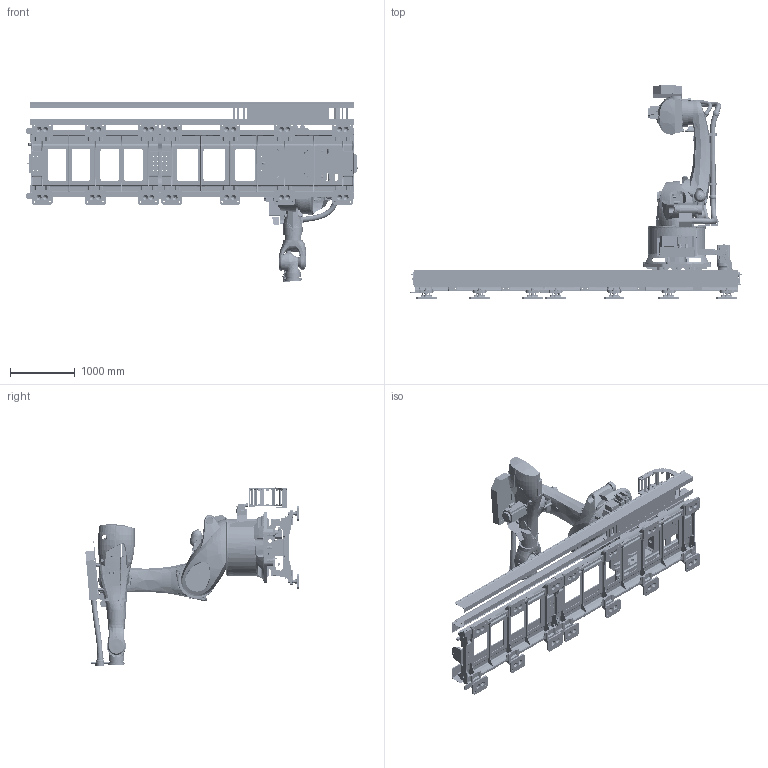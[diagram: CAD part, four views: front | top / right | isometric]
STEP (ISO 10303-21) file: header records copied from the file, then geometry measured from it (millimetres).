
FILE_DESCRIPTION(('CATIA V5 STEP Exchange','CAx-IF Rec.Pracs.--- Model Styling and Organization---1.5--- 2016-08-15','CAx-IF Rec.Pracs.---Supplemental Geometry---1.0---2011-11-01','CAx-IF Rec.Pracs.--- Composite Materials ---1.1---2010-07-15'),'2;1');
FILE_NAME('G:\3月\2025--3-12 SCT5000\3维数据\2025-3-12-STP\SCT5000-5M-KR600.stp','2025-03-12T07:28:51+00:00',('none'),('none'),'CATIA Version 5-6 Release 2020','CATIA V5 STEP AP214 v1','none');
FILE_SCHEMA(('AUTOMOTIVE_DESIGN { 1 0 10303 214 1 1 1 1 }'));
Products named in the file (114): SCT5000-5M-KR600; Product1; SG2210-A-A01; SG2210-A-A01.; SA2210-A-A11-01.1; Copy (1) of SA2210-A-A06.; SA2210-A-A09..14.17; M16_120.stp; ISO 7089 WASHER 16x30 STEEL GRADE A PLAIN NORMAL SERIES.2.stp; ISO 8738 WASHER 16 STEEL GRADE A PLAIN WASHER FOR CLEVIS PIN.1.stp.43.29; ISO 4762 SCREW M16x120 STEEL HEXAGON SOCKET HEAD CAP.stp.29; SA2210-A-A11-01-00; Copy (1) of SA2210-A-A07-04.1.stp.45.30; ASME B18.3.6M SCREW M6x20 STEEL HEX SOCKET SET OVAL POINT.37; SG2210-A-A03; SG2210-A-A03.; 2024-10-8-00; 2024-10-8-01; Product2; SG2210-A-A06; SG2210-A-A06-02; SG2210-A-A07.; Copy (1) of Copy (1) of M12.stp; Copy (1) of M12_45.stp; ISO 7089 WASHER 12x24 STEEL GRADE A PLAIN NORMAL SERIES.stp.23; ISO 8738 WASHER 12 STEEL GRADE A PLAIN WASHER FOR CLEVIS PIN.stp.69.67.34; ISO 4762 SCREW M12x45 STEEL HEXAGON SOCKET HEAD CAP.stp.67.90; Copy (1) of SA2210-A-A08-02.stp; Copy (1) of M12_45_3.stp; JIS B 1359 PIN 10x50 PARALLEL WITH INTERNAL THREAD CLASS 1.stp.82.35; Copy (1) of M12_45_2.stp; Copy (1) of M8_80.stp; ISO 4762 SCREW M8x80 STEEL HEXAGON SOCKET HEAD CAP.stp.122; SY20230207-ZZ-01-06-03-02.stp.6.18; Copy (1) of M12_45_1.stp; Copy (1) of 3900ib-SP  180S-MF1-   10-1K1-2SEC0154.stp; #3900ib-Abtrieb_SP_m150EC0154#_1.stp.43; #3900ib-Abtrieb_SP_m150_3EC0154#_1.stp.56.83; #3900ib-gb_fastener_washer_pwec 20_GB_FASTENER_WASHER_PWEC 204#_1.stp.42.68.38; #3900ib-Abtrieb_SP_m150_4EC0154#_1.stp.123.19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
Assembly tree (176 placements, depth 7):
  SCT5000-5M-KR600
    Product1
      SG2210-A-A01
        SG2210-A-A01.
        SA2210-A-A11-01.1  x6
          Copy (1) of SA2210-A-A06.
          SA2210-A-A09..14.17
          M16_120.stp
            ISO 7089 WASHER 16x30 STEEL GRADE A PLAIN NORMAL SERIES.2.stp
            ISO 8738 WASHER 16 STEEL GRADE A PLAIN WASHER FOR CLEVIS PIN.1.stp.43.29
            ISO 4762 SCREW M16x120 STEEL HEXAGON SOCKET HEAD CAP.stp.29
          SA2210-A-A11-01-00
            Copy (1) of SA2210-A-A07-04.1.stp.45.30
            ASME B18.3.6M SCREW M6x20 STEEL HEX SOCKET SET OVAL POINT.37  x4
      SG2210-A-A03
        SG2210-A-A03.
        SA2210-A-A11-01.1  x8
          Copy (1) of SA2210-A-A06.
          SA2210-A-A09..14.17
          M16_120.stp
            ISO 7089 WASHER 16x30 STEEL GRADE A PLAIN NORMAL SERIES.2.stp
            ISO 8738 WASHER 16 STEEL GRADE A PLAIN WASHER FOR CLEVIS PIN.1.stp.43.29
            ISO 4762 SCREW M16x120 STEEL HEXAGON SOCKET HEAD CAP.stp.29
          SA2210-A-A11-01-00
            Copy (1) of SA2210-A-A07-04.1.stp.45.30
            ASME B18.3.6M SCREW M6x20 STEEL HEX SOCKET SET OVAL POINT.37  x4
      2024-10-8-00
      2024-10-8-01
    Product2
      SG2210-A-A06
        SG2210-A-A06-02
          SG2210-A-A07.
          Copy (1) of Copy (1) of M12.stp
            Copy (1) of M12_45.stp  x12
              ISO 7089 WASHER 12x24 STEEL GRADE A PLAIN NORMAL SERIES.stp.23
              ISO 8738 WASHER 12 STEEL GRADE A PLAIN WASHER FOR CLEVIS PIN.stp.69.67.34
              ISO 4762 SCREW M12x45 STEEL HEXAGON SOCKET HEAD CAP.stp.67.90
          Copy (1) of SA2210-A-A08-02.stp
            Copy (1) of M12_45_3.stp
              ISO 4762 SCREW M12x45 STEEL HEXAGON SOCKET HEAD CAP.stp.67.90
              ISO 7089 WASHER 12x24 STEEL GRADE A PLAIN NORMAL SERIES.stp.23
              ISO 8738 WASHER 12 STEEL GRADE A PLAIN WASHER FOR CLEVIS PIN.stp.69.67.34
            JIS B 1359 PIN 10x50 PARALLEL WITH INTERNAL THREAD CLASS 1.stp.82.35  x2
            Copy (1) of M12_45_2.stp
              ISO 8738 WASHER 12 STEEL GRADE A PLAIN WASHER FOR CLEVIS PIN.stp.69.67.34
              ISO 4762 SCREW M12x45 STEEL HEXAGON SOCKET HEAD CAP.stp.67.90
              ISO 7089 WASHER 12x24 STEEL GRADE A PLAIN NORMAL SERIES.stp.23
            Copy (1) of M8_80.stp
              ISO 4762 SCREW M8x80 STEEL HEXAGON SOCKET HEAD CAP.stp.122  x2
            SY20230207-ZZ-01-06-03-02.stp.6.18
            Copy (1) of M12_45_1.stp
              ISO 8738 WASHER 12 STEEL GRADE A PLAIN WASHER FOR CLEVIS PIN.stp.69.67.34
              ISO 7089 WASHER 12x24 STEEL GRADE A PLAIN NORMAL SERIES.stp.23
              ISO 4762 SCREW M12x45 STEEL HEXAGON SOCKET HEAD CAP.stp.67.90
          Copy (1) of 3900ib-SP  180S-MF1-   10-1K1-2SEC0154.stp
            #3900ib-Abtrieb_SP_m150EC0154#_1.stp.43
            #3900ib-Abtrieb_SP_m150_3EC0154#_1.stp.56.83
            #3900ib-gb_fastener_washer_pwec 20_GB_FASTENER_WASHER_PWEC 204#_1.stp.42.68.38
            #3900ib-Abtrieb_SP_m150_4EC0154#_1.stp.123.19
            #3900ib-gb_fastener_bolt_sshb a m16x65-simplified_GB_FASTENER_BOLT_SSHB A M16X65-Simplified4#_1.stp.55.124.15
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Bounding box: 5125 x 3293.76 x 2776.95 mm (x, y, z)
Volume: 1363149765.2 mm3; surface area: 66413431.1 mm2
Topology: 474 solids, 595 shells, 26088 faces, 74786 edges, 50229 vertices
Faces by surface type: plane 11603, cylinder 7580, cone 2675, bspline 2105, torus 1518, sphere 409, extrusion 191, revolution 7
Entity records: 695216 total; most frequent: CARTESIAN_POINT 299251, ORIENTED_EDGE 95904, DIRECTION 50479, EDGE_CURVE 48487, VERTEX_POINT 33241, VECTOR 21387, LINE 21196, AXIS2_PLACEMENT_3D 20415
